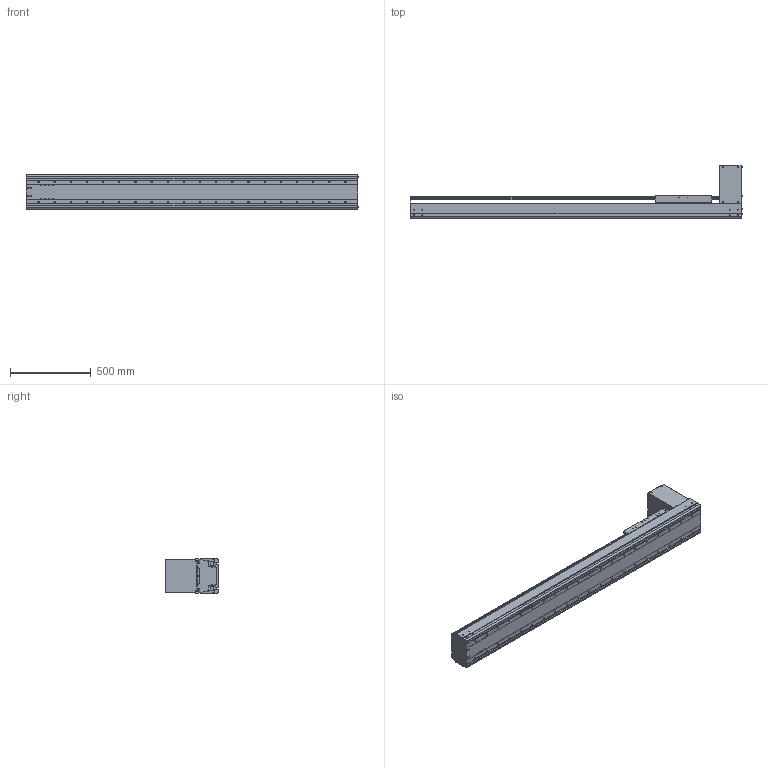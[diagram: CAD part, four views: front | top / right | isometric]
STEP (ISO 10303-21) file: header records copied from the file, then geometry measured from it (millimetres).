
FILE_DESCRIPTION((''),'2;1');
FILE_NAME('BE60J-BT-L19N-E5_IGS_PRT','2017-06-18T',(' '),(''),'PRO/ENGINEER BY PARAMETRIC TECHNOLOGY CORPORATION, 2015030','PRO/ENGINEER BY PARAMETRIC TECHNOLOGY CORPORATION, 2015030','');
FILE_SCHEMA(('CONFIG_CONTROL_DESIGN'));
Products named in the file (1): BE60J-BT-L19N-E5_IGS_PRT
Bounding box: 2054.4 x 327.5 x 214 mm (x, y, z)
Volume: 15009477.2 mm3; surface area: 4583486.5 mm2
Topology: 1 solids, 281 shells, 2238 faces, 6303 edges, 4217 vertices
Faces by surface type: cylinder 1084, plane 840, cone 218, torus 48, sphere 48
Entity records: 74570 total; most frequent: CARTESIAN_POINT 17018, DIRECTION 12047, ORIENTED_EDGE 11284, EDGE_CURVE 6126, AXIS2_PLACEMENT_3D 4553, VERTEX_POINT 4198, VECTOR 2941, LINE 2941
